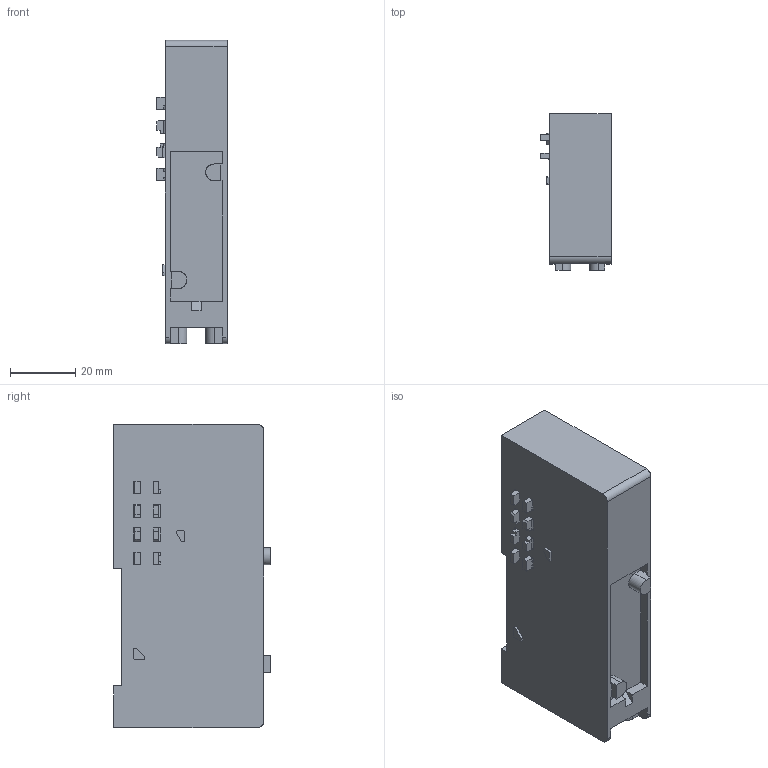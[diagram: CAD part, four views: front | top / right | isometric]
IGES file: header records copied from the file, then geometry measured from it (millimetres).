
Start section: ------------------------------------------------------------------------
Global section: file name: D:\ICADMX\tmp\trans3d_spg\CVICAD02.9116.F10ZX-TK_7890.igs; native system: spGate; preprocessor: ver12.6.6; author: Unknown; organization: Unknown; date: 200901.142058; units: millimetre
Bounding box: 21.6 x 48 x 93 mm (x, y, z)
Surface area: 15180.9 mm2 (no closed solid volume)
Topology: 0 solids, 0 shells, 241 faces, 1370 edges, 1370 vertices
Faces by surface type: bspline 241
